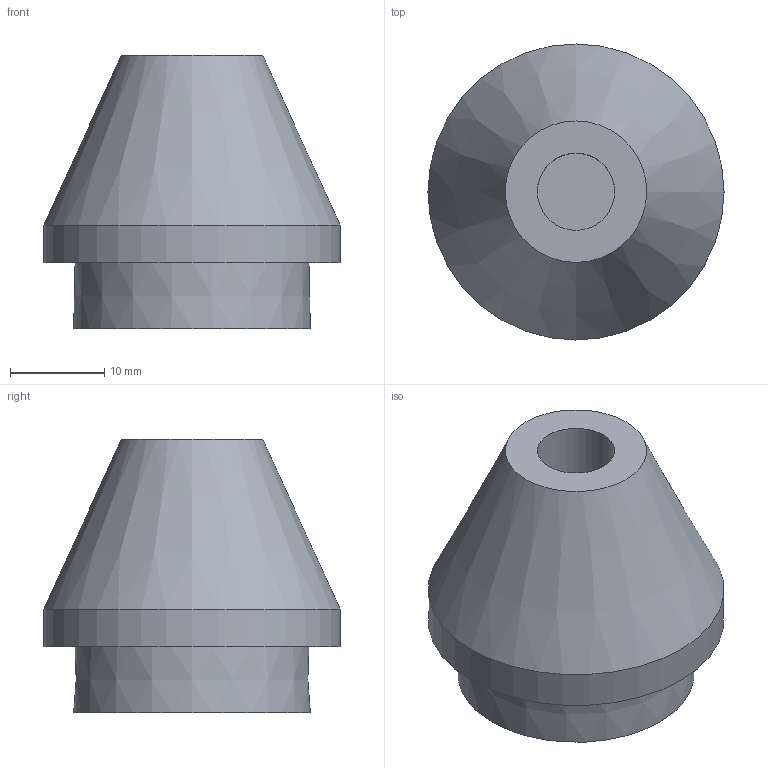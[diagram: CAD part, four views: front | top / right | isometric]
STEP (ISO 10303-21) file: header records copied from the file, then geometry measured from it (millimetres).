
FILE_DESCRIPTION(('Open CASCADE Model'),'2;1');
FILE_NAME('MW-P-004_ROD_CONNECTOR_8MM','2026-08-22T00:00:00',('Author'), ('Open CASCADE'),'Open CASCADE STEP processor 7.8','build123d', 'Unknown');
FILE_SCHEMA(('AUTOMOTIVE_DESIGN { 1 0 10303 214 1 1 1 1 }'));
Length unit declared in the file: millimetre
Products named in the file (1): MW-P-004_ROD_CONNECTOR_8MM
Bounding box: 31.4 x 31.4 x 29 mm (x, y, z)
Volume: 13601 mm3; surface area: 3760.1 mm2
Topology: 1 solids, 1 shells, 8 faces, 11 edges, 7 vertices
Faces by surface type: plane 4, cylinder 2, cone 2
Full cylindrical faces by diameter (mm): 8.2 x1, 31.4 x1
Entity records: 335 total; most frequent: DIRECTION 57, CARTESIAN_POINT 50, ORIENTED_EDGE 22, PCURVE 22, DEFINITIONAL_REPRESENTATION 22, LINE 19, VECTOR 19, AXIS2_PLACEMENT_3D 16
